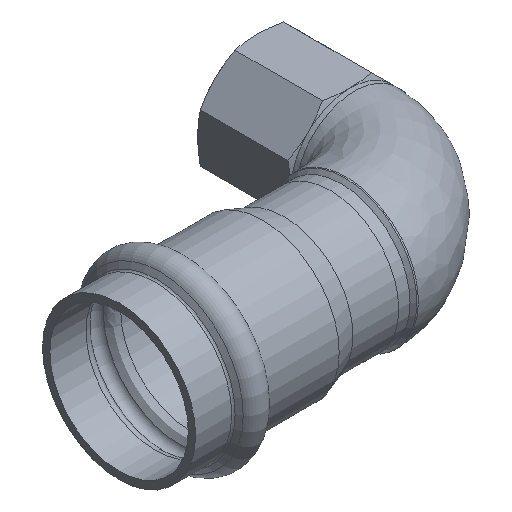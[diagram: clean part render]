
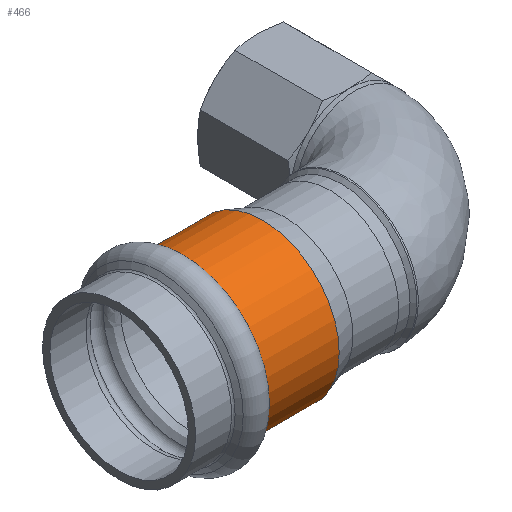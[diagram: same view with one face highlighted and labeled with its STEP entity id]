
A CAD part, isometric view. The second image highlights one B-rep face of the part: STEP entity #466.
In plain terms, the highlighted cylindrical face has radius 15.6 mm (diameter 31.2 mm), a full revolution.
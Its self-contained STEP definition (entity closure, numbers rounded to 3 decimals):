
#435=CARTESIAN_POINT('',(-28.571,15.6,0.));
#436=VERTEX_POINT('',#435);
#437=CARTESIAN_POINT('',(-28.571,0.,0.0));
#438=DIRECTION('',(-1.0,0.0,0.0));
#439=DIRECTION('',(0.0,-1.0,0.0));
#440=AXIS2_PLACEMENT_3D('',#437,#438,#439);
#441=CIRCLE('',#440,15.6);
#442=EDGE_CURVE('',#436,#436,#441,.T.);
#447=CARTESIAN_POINT('',(-21.371,0.,0.0));
#448=DIRECTION('',(1.0,0.,0.0));
#449=DIRECTION('',(0.0,1.0,0.0));
#450=AXIS2_PLACEMENT_3D('',#447,#448,#449);
#451=CYLINDRICAL_SURFACE('',#450,15.6);
#452=CARTESIAN_POINT('',(-13.736,15.6,0.0));
#453=VERTEX_POINT('',#452);
#454=CARTESIAN_POINT('',(-13.736,0.,0.0));
#455=DIRECTION('',(1.0,0.0,0.0));
#456=DIRECTION('',(0.0,1.0,0.0));
#457=AXIS2_PLACEMENT_3D('',#454,#455,#456);
#458=CIRCLE('',#457,15.6);
#459=EDGE_CURVE('',#453,#453,#458,.T.);
#460=ORIENTED_EDGE('',*,*,#459,.F.);
#461=EDGE_LOOP('',(#460));
#462=FACE_OUTER_BOUND('',#461,.T.);
#463=ORIENTED_EDGE('',*,*,#442,.F.);
#464=EDGE_LOOP('',(#463));
#465=FACE_BOUND('',#464,.T.);
#466=ADVANCED_FACE('',(#462,#465),#451,.T.);
